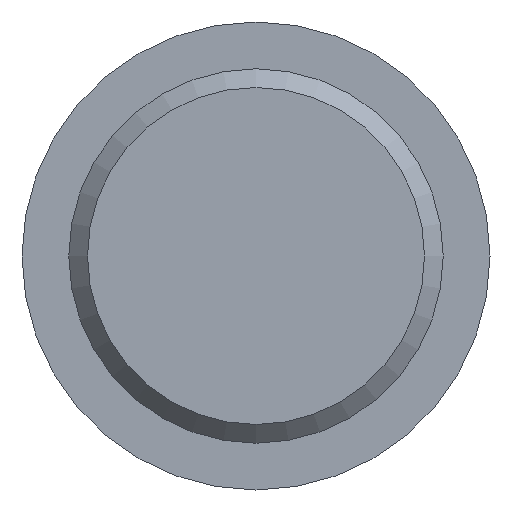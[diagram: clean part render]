
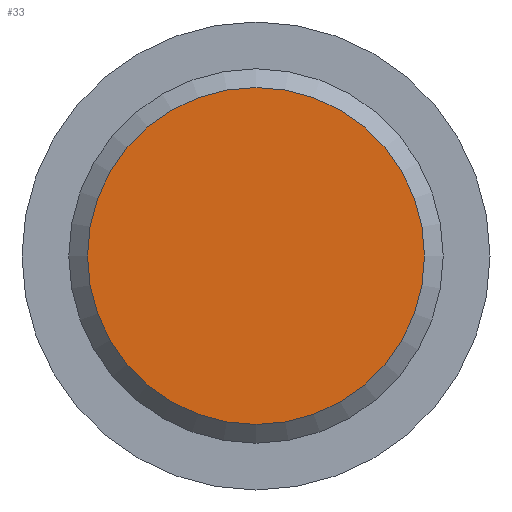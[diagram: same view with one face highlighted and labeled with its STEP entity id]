
A CAD part, left-side view. The second image highlights one B-rep face of the part: STEP entity #33.
In plain terms, the highlighted planar face has unit normal (-1, 0, 0).
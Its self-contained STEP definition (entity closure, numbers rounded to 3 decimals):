
#33 = ADVANCED_FACE( '', ( #68 ), #69, .T. );
#68 = FACE_OUTER_BOUND( '', #109, .T. );
#69 = PLANE( '', #110 );
#109 = EDGE_LOOP( '', ( #144 ) );
#110 = AXIS2_PLACEMENT_3D( '', #145, #146, #147 );
#144 = ORIENTED_EDGE( '', *, *, #196, .T. );
#145 = CARTESIAN_POINT( '', ( 0., 0., 0. ) );
#146 = DIRECTION( '', ( -1., 0., 0. ) );
#147 = DIRECTION( '', ( 0., 0., 1. ) );
#196 = EDGE_CURVE( '', #213, #213, #214, .T. );
#213 = VERTEX_POINT( '', #238 );
#214 = CIRCLE( '', #239, 9. );
#238 = CARTESIAN_POINT( '', ( 0., 0., 9. ) );
#239 = AXIS2_PLACEMENT_3D( '', #262, #263, #264 );
#262 = CARTESIAN_POINT( '', ( 0., 0., 0. ) );
#263 = DIRECTION( '', ( -1., 0., 0. ) );
#264 = DIRECTION( '', ( 0., 0., 1. ) );
